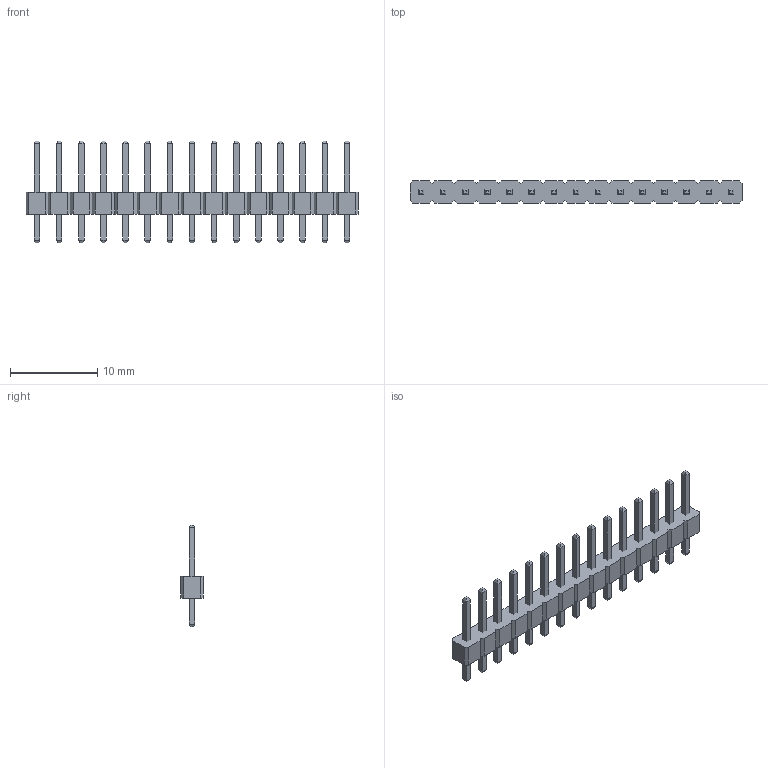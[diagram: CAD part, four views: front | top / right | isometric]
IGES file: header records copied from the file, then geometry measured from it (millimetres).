
Start section: Data from Parasolid IGES Translator 23.1.110, Copyright(c) 2006 Siemens PLM Software. All Rights Reserved.
Global section: file name: 5f3dd682933f190f816bcb6e.iges; native system: By Siemens PLM Incorporated; preprocessor: XPlus GENERIC/IGES 23.1.110; author: Noname; organization: Noname; date: 20200820.014850; units: metre
Bounding box: 38.1 x 2.54 x 11.68 mm (x, y, z)
Surface area: 867.2 mm2 (no closed solid volume)
Topology: 0 solids, 0 shells, 394 faces, 1752 edges, 1752 vertices
Faces by surface type: extrusion 394
